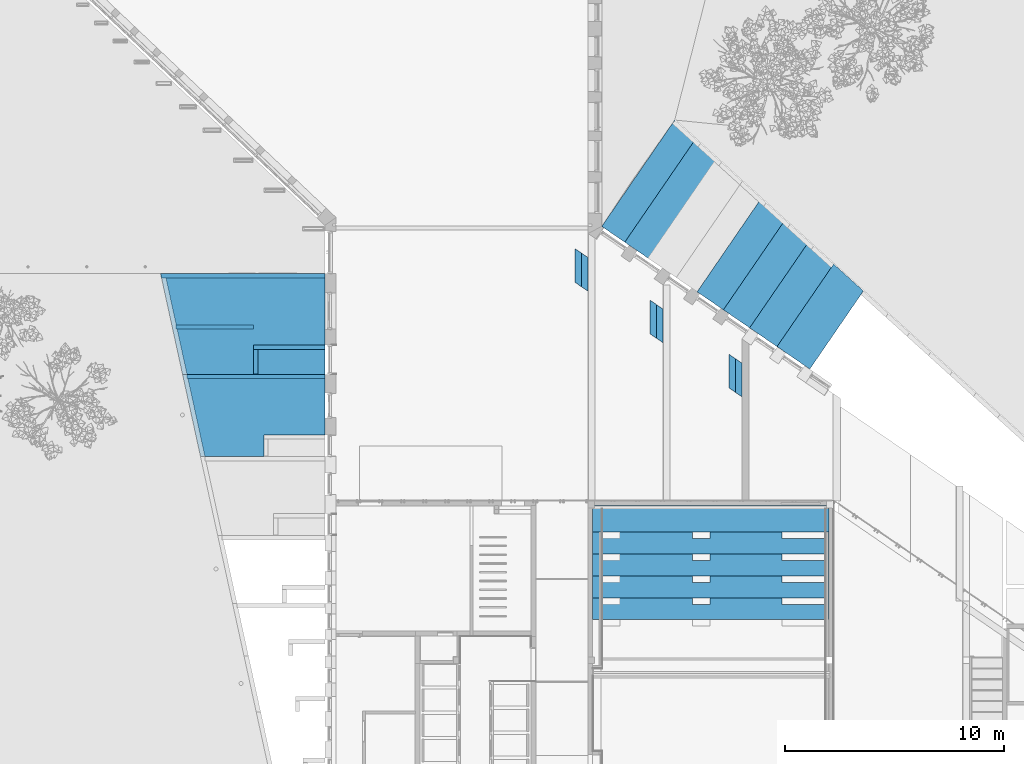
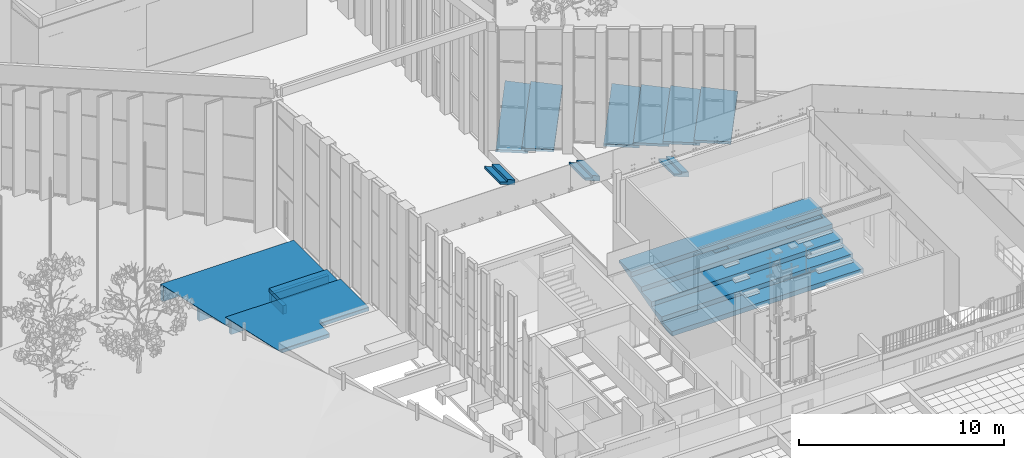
# One storey, part 139 of 246: 20 stairs.
"""IFC2X3 building model written with IfcOpenShell, lengths in millimetres."""

from ifc_helpers import new_model, entity, si_unit, converted_unit, derived_unit, money_unit, direction, frame, origin_with_axes, place, context, subcontext, project, spatial, faceted_brep, material, material_list, element, save


model = new_model("IFC2X3")

# Units and contexts
model_context = context("Model", 3, precision=0.01, world=origin_with_axes(), true_north=direction((0.0, 1.0)))
body_context = subcontext(model_context, "Body", "Model", "MODEL_VIEW")
ifc_project = project(units=[si_unit("LENGTHUNIT", "METRE", prefix="MILLI"), si_unit("AREAUNIT", "SQUARE_METRE"), si_unit("VOLUMEUNIT", "CUBIC_METRE"), converted_unit("PLANEANGLEUNIT", "DEGREE", entity("IfcPlaneAngleMeasure", 0.0174532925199), si_unit("PLANEANGLEUNIT", "RADIAN"), dimensions=[0, 0, 0, 0, 0, 0, 0]), si_unit("SOLIDANGLEUNIT", "STERADIAN"), money_unit("EUR"), converted_unit("TIMEUNIT", "Year", entity("IfcTimeMeasure", 31556926.0), si_unit("TIMEUNIT", "SECOND"), dimensions=[0, 0, 1, 0, 0, 0, 0]), si_unit("MASSUNIT", "GRAM", prefix="KILO"), si_unit("THERMODYNAMICTEMPERATUREUNIT", "DEGREE_CELSIUS"), si_unit("LUMINOUSINTENSITYUNIT", "LUMEN"), si_unit("ENERGYUNIT", "JOULE", prefix="MEGA"), derived_unit("THERMALCONDUCTANCEUNIT", [(si_unit("POWERUNIT", "WATT"), 1), (si_unit("LENGTHUNIT", "METRE"), -1), (si_unit("THERMODYNAMICTEMPERATUREUNIT", "KELVIN"), -1)]), derived_unit("SPECIFICHEATCAPACITYUNIT", [(si_unit("ENERGYUNIT", "JOULE"), 1), (si_unit("MASSUNIT", "GRAM", prefix="KILO"), -1), (si_unit("THERMODYNAMICTEMPERATUREUNIT", "KELVIN"), -1)]), derived_unit("MASSDENSITYUNIT", [(si_unit("MASSUNIT", "GRAM", prefix="KILO"), 1), (si_unit("VOLUMEUNIT", "CUBIC_METRE"), -1)])], contexts=[model_context])

# Site, building, storey
site_placement = place(None, origin_with_axes())
site = spatial("IfcSite", under=ifc_project, at=site_placement, Name="L.Koidula tn 11b", CompositionType="ELEMENT")
building_placement = place(site_placement, origin_with_axes())
building = spatial("IfcBuilding", under=site, at=building_placement, Name="Rakvere Riigigümnaasium", CompositionType="ELEMENT")
storey_placement = place(building_placement, origin_with_axes())
storey = spatial("IfcBuildingStorey", under=building, at=storey_placement, Name="1.korrus 0,00", CompositionType="ELEMENT", Elevation=0.0)

# Stairs
ifc_material_1 = material(Name="Betoon")
stair_1_placement = place(storey_placement, frame((34986.0000521, 41880.4554916, -495.0), z_axis=(0.0, 0.0, 1.0), x_axis=(-1.0, 0.0, 0.0)))
element("IfcStair", 1, at=stair_1_placement, inside=storey, material=ifc_material_1, Name="Astmestik-1", ShapeType="NOTDEFINED", context=body_context, shape_type="Brep", body=[
    faceted_brep([(0.0, 200.0, 914.0), (0.0, 0.0, 914.0), (7495.59100792, 0.0, 914.0), (7451.94036184, 200.0, 914.0), (0.0, 200.0, 0.0), (0.0, 0.0, 0.0), (7495.59100792, 0.0, 0.0), (7451.94036184, 200.0, 0.0)], [[[0, 1, 2, 3]], [[0, 4, 5, 1]], [[1, 5, 6, 2]], [[6, 7, 3, 2]], [[4, 0, 3, 7]], [[5, 4, 7, 6]]]),
])
stair_2_placement = place(storey_placement, frame((34986.0, 38630.4554754, -90.0), z_axis=(0.0, 0.0, 1.0), x_axis=(-1.0, 0.0, 0.0)))
element("IfcStair", 2, at=stair_2_placement, inside=storey, material=ifc_material_1, Name="Astmestik-1", ShapeType="NOTDEFINED", context=body_context, shape_type="Brep", body=[
    faceted_brep([(0.0, 0.0, 518.0), (3249.05698192, 0.0, 518.0), (3249.05701073, 200.0, 518.0), (0.0, 200.0, 518.0), (0.0, 0.0, 0.0), (3249.05698192, 0.0, 0.0), (3249.05701073, 200.0, 0.0), (0.0, 200.0, 0.0)], [[[0, 1, 2, 3]], [[4, 5, 1, 0]], [[6, 2, 1, 5]], [[3, 2, 6, 7]], [[7, 4, 0, 3]], [[7, 6, 5, 4]]]),
])
stair_3_placement = place(storey_placement, frame((31736.9430181, 38630.4554754, -90.0), z_axis=(0.0, 0.0, 1.0), x_axis=(-1.44049249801e-07, -1.0, 0.0)))
element("IfcStair", 3, at=stair_3_placement, inside=storey, material=ifc_material_1, Name="Astmestik-1", ShapeType="NOTDEFINED", context=body_context, shape_type="Brep", body=[
    faceted_brep([(199.99997119, 200.0, 518.0), (200.0, 0.0, 518.0), (1320.25360693, 0.0, 518.0), (1320.25360693, 200.0, 518.0), (199.99997119, 200.0, 0.0), (200.0, 0.0, 0.0), (1320.25360693, 0.0, 0.0), (1320.25360693, 200.0, 0.0)], [[[0, 1, 2, 3]], [[4, 5, 1, 0]], [[1, 5, 6, 2]], [[7, 3, 2, 6]], [[4, 0, 3, 7]], [[5, 4, 7, 6]]]),
])
stair_4_placement = place(storey_placement, frame((46399.9999938, 41129.5623836, 0.0), z_axis=(0.0, 0.0, 1.0), x_axis=(1.0, 0.0, 0.0)))
element("IfcStair", 4, at=stair_4_placement, inside=storey, material=ifc_material_1, Name="Trepp", ShapeType="NOTDEFINED", context=body_context, shape_type="Brep", body=[
    faceted_brep([(300.0, 152.071992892, 155.0), (300.0, 1692.05118758, 155.0), (0.0, 1897.81447449, 155.0), (0.0, 357.835275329, 155.0), (300.0, 152.071992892, 310.0), (300.0, 1692.05118758, 310.0), (0.0, 1897.81447449, 0.0), (600.0, 1486.28790067, 310.0), (600.0, 1486.28790067, 0.0), (0.0, 357.835275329, 0.0), (600.0, -53.6912895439, 0.0), (600.0, -53.6912895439, 310.0)], [[[0, 1, 2, 3]], [[1, 0, 4, 5]], [[6, 2, 1, 5, 7, 8]], [[2, 6, 9, 3]], [[0, 3, 9, 10, 11, 4]], [[7, 5, 4, 11]], [[11, 10, 8, 7]], [[8, 10, 9, 6]]]),
])
stair_5_placement = place(storey_placement, frame((49819.9999594, 38779.8368952, 465.0), z_axis=(0.0, 0.0, 1.0), x_axis=(1.0, 0.0, 0.0)))
element("IfcStair", 5, at=stair_5_placement, inside=storey, material=ifc_material_1, Name="Trepp", ShapeType="NOTDEFINED", context=body_context, shape_type="Brep", body=[
    faceted_brep([(300.0, 151.998051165, 155.0), (300.0, 1692.15884175, 155.0), (-1.46982301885e-05, 1897.90383736, 155.0), (0.0, 357.761440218, 155.0), (300.0, 151.998051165, 310.0), (300.0, 1692.15884175, 310.0), (-1.46982301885e-05, 1897.90383736, 0.0), (600.000028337, 1486.41383679, 310.0), (600.000028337, 1486.41383679, 0.0), (0.0, 357.761440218, 0.0), (600.0, -53.7653378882, 0.0), (600.0, -53.7653378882, 310.0)], [[[0, 1, 2, 3]], [[1, 0, 4, 5]], [[6, 2, 1, 5, 7, 8]], [[2, 6, 9, 3]], [[0, 3, 9, 10, 11, 4]], [[7, 5, 4, 11]], [[11, 10, 8, 7]], [[8, 10, 9, 6]]]),
])
stair_6_placement = place(storey_placement, frame((53420.0253524, 36314.1328393, 929.821815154), z_axis=(0.0, 0.0, 1.0), x_axis=(1.0, 0.0, 0.0)))
element("IfcStair", 6, at=stair_6_placement, inside=storey, material=ifc_material_1, Name="Trepp", ShapeType="NOTDEFINED", context=body_context, shape_type="Brep", body=[
    faceted_brep([(300.0, 152.304585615, 155.0), (300.0, 1692.3053695, 155.0), (-6.51611742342e-06, 1898.05035153, 155.0), (-2.20420375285e-05, 358.007993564, 155.0), (300.0, 152.304585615, 310.0), (300.0, 1692.3053695, 310.0), (-6.51611742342e-06, 1898.05035153, 0.0), (600.0, 1486.56039194, 310.0), (600.0, 1486.56039194, 0.0), (-2.20420375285e-05, 358.007993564, 0.0), (600.0, -53.3988072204, 0.0), (600.0, -53.3988072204, 310.0)], [[[0, 1, 2, 3]], [[1, 0, 4, 5]], [[6, 2, 1, 5, 7, 8]], [[2, 6, 9, 3]], [[0, 3, 9, 10, 11, 4]], [[7, 5, 4, 11]], [[11, 10, 8, 7]], [[8, 10, 9, 6]]]),
])
ifc_material_2 = material(Name="Puit-terrass")
stair_7_placement = place(storey_placement, frame((29310.6752725, 33540.2983953, 910.0), z_axis=(0.0, 0.0, 1.0), x_axis=(1.0, 0.0, 0.0)))
element("IfcStair", 7, at=stair_7_placement, inside=storey, material=ifc_material_2, Name="Astmestik-1", ShapeType="NOTDEFINED", context=body_context, shape_type="Brep", body=[
    faceted_brep([(2889.63446972, 0.0, 0.0), (0.0, 0.0, 0.0), (0.0, 0.0, -26.0), (2889.63446972, 0.0, -26.0), (5675.32477967, 3749.90347312, 0.0), (-818.428546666, 3749.90347312, 0.0), (2889.63446972, 990.042685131, 0.0), (5675.32477967, 990.042685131, 0.0), (-818.428546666, 3749.90347312, -26.0), (2889.63446972, 990.042685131, -26.0), (5675.32477967, 3749.90347312, -26.0), (5675.32477967, 990.042685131, -26.0)], [[[0, 1, 2, 3]], [[4, 5, 1, 0, 6, 7]], [[1, 5, 8, 2]], [[9, 3, 2, 8, 10, 11]], [[6, 0, 3, 9]], [[5, 4, 10, 8]], [[7, 6, 9, 11]], [[4, 7, 11, 10]]]),
])
stair_8_placement = place(storey_placement, frame((27490.4090628, 41880.4555425, 445.0), z_axis=(0.0, 0.0, 1.0), x_axis=(1.0, 0.0, 0.0)))
element("IfcStair", 8, at=stair_8_placement, inside=storey, material=ifc_material_2, Name="Astmestik-1", ShapeType="NOTDEFINED", context=body_context, shape_type="Brep", body=[
    faceted_brep([(1001.84195244, -4590.25367407, 0.0), (0.0, 0.0, 0.0), (0.0, 0.0, -26.0), (1001.84195244, -4590.25367407, -26.0), (7495.59098936, -3250.00006714, 0.0), (7495.59098936, 0.0, 0.0), (4246.53392931, -4590.25367407, 0.0), (4246.53392931, -3250.00006714, 0.0), (7495.59098936, 0.0, -26.0), (4246.53392931, -4590.25367407, -26.0), (7495.59098936, -3250.00006714, -26.0), (4246.53392931, -3250.00006714, -26.0)], [[[0, 1, 2, 3]], [[4, 5, 1, 0, 6, 7]], [[1, 5, 8, 2]], [[9, 3, 2, 8, 10, 11]], [[6, 0, 3, 9]], [[5, 4, 10, 8]], [[7, 6, 9, 11]], [[4, 7, 11, 10]]]),
])
ifc_material_3 = material(Name="vaip")
ifc_material_list = material_list([ifc_material_1, ifc_material_3, ifc_material_3, ifc_material_3, ifc_material_3, ifc_material_3, ifc_material_3, ifc_material_3, ifc_material_3, ifc_material_3, ifc_material_3])
stair_9_placement = place(storey_placement, frame((57980.0348101, 26095.4555287, -0.00616850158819), z_axis=(0.0, 0.0, 1.0), x_axis=(1.0, 0.0, 0.0)))
element("IfcStair", 9, at=stair_9_placement, inside=storey, material=ifc_material_list, Name="A-TR-1", ShapeType="NOTDEFINED", context=body_context, shape_type="Brep", body=[
    faceted_brep([(-10780.0, 4005.0, 1111.0), (-10780.0, 3005.0, 1111.0), (0.0, 3005.0, 1111.0), (0.0, 4005.0, 1111.0), (-154.457261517, 3699.85366785, 1111.0), (-2124.5, 3699.85366785, 1111.0), (-2124.5, 3999.85366785, 1111.0), (-154.457261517, 3999.85366785, 1111.0), (-6229.45549696, 3699.85366785, 1111.0), (-6229.45549696, 3999.85366785, 1111.0), (-5419.45549696, 3999.85366785, 1111.0), (-5419.45549696, 3699.85366785, 1111.0), (-10780.0, 1005.0, 274.0), (-10780.0, 1005.0, 553.0), (-10780.0, 2005.0, 553.0), (-10780.0, 2005.0, 832.0), (-10780.0, 3005.0, 832.0), (-10780.0, 4005.00005475, 1390.0), (-10780.0, 5000.0, 1390.0), (-10780.0, 5000.0, 1395.0), (-10780.0, 5200.0, 1395.0), (-10780.0, 5200.0, 1245.0), (-10780.0, 5043.45405853, 1245.0), (-10780.0, 5000.0, 1232.87631767), (-10780.0, 4909.09090909, 1207.51268131), (-10780.0, 4818.18181818, 1182.14904494), (-10780.0, 4727.27272727, 1156.78540858), (-10780.0, 4636.36363636, 1131.42177222), (-10780.0, 4545.45454545, 1106.05813585), (-10780.0, 4454.54545455, 1080.69449949), (-10780.0, 4363.63636364, 1055.33086313), (-10780.0, 4272.72727273, 1029.96722676), (-10780.0, 4181.81818182, 1004.6035904), (-10780.0, 4090.90909091, 979.239954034), (-10780.0, 4000.0, 953.876317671), (-10780.0, 3909.09090909, 928.512681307), (-10780.0, 3818.18181818, 903.149044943), (-10780.0, 3727.27272727, 877.78540858), (-10780.0, 3636.36363636, 852.421772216), (-10780.0, 3545.45454545, 827.058135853), (-10780.0, 3454.54545455, 801.694499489), (-10780.0, 3363.63636364, 776.330863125), (-10780.0, 3272.72727273, 750.967226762), (-10780.0, 3181.81818182, 725.603590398), (-10780.0, 3090.90909091, 700.239954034), (-10780.0, 3000.0, 674.876317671), (-10780.0, 2909.09090909, 649.512681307), (-10780.0, 2818.18181818, 624.149044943), (-10780.0, 2727.27272727, 598.78540858), (-10780.0, 2636.36363636, 573.421772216), (-10780.0, 2545.45454545, 548.058135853), (-10780.0, 2454.54545455, 522.694499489), (-10780.0, 2363.63636364, 497.330863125), (-10780.0, 2272.72727273, 471.967226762), (-10780.0, 2181.81818182, 446.603590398), (-10780.0, 2090.90909091, 421.239954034), (-10780.0, 2000.0, 395.876317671), (-10780.0, 1909.09090909, 370.512681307), (-10780.0, 1818.18181818, 345.149044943), (-10780.0, 1727.27272727, 319.78540858), (-10780.0, 1636.36363636, 294.421772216), (-10780.0, 1545.45454545, 269.058135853), (-10780.0, 1454.54545455, 243.694499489), (-10780.0, 1363.63636364, 218.330863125), (-10780.0, 1272.72727273, 192.967226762), (-10780.0, 1181.81818182, 167.603590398), (-10780.0, 1090.90909091, 142.239954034), (-10780.0, 1000.0, 116.876317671), (-10780.0, 909.090909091, 91.5126813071), (-10780.0, 818.181818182, 66.1490449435), (-10780.0, 727.272727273, 40.7854085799), (-10780.0, 636.363636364, 15.4217722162), (-10780.0, 581.08846713, 0.0), (-10780.0, 5.0, 0.0), (-10780.0, 5.0, 274.0), (0.0, 3005.0, 832.0), (0.0, 4727.27272727, 1156.78540858), (0.0, 4818.18181818, 1182.14904494), (0.0, 4909.09090909, 1207.51268131), (0.0, 5000.0, 1232.87631767), (0.0, 5043.45405853, 1245.0), (0.0, 5200.0, 1245.0), (0.0, 5200.0, 1395.0), (0.0, 5000.0, 1395.0), (0.0, 5000.0, 1390.0), (0.0, 4005.00005475, 1390.0), (0.0, 2005.0, 832.0), (0.0, 2005.0, 553.0), (0.0, 1005.0, 553.0), (0.0, 1005.0, 274.0), (0.0, 5.0, 274.0), (0.0, 5.0, 0.0), (0.0, 581.08846713, 0.0), (0.0, 636.363636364, 15.4217722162), (0.0, 727.272727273, 40.7854085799), (0.0, 818.181818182, 66.1490449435), (0.0, 909.090909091, 91.5126813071), (0.0, 1000.0, 116.876317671), (0.0, 1090.90909091, 142.239954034), (0.0, 1181.81818182, 167.603590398), (0.0, 1272.72727273, 192.967226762), (0.0, 1363.63636364, 218.330863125), (0.0, 1454.54545455, 243.694499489), (0.0, 1545.45454545, 269.058135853), (0.0, 1636.36363636, 294.421772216), (0.0, 1727.27272727, 319.78540858), (0.0, 1818.18181818, 345.149044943), (0.0, 1909.09090909, 370.512681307), (0.0, 2000.0, 395.876317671), (0.0, 2090.90909091, 421.239954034), (0.0, 2181.81818182, 446.603590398), (0.0, 2272.72727273, 471.967226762), (0.0, 2363.63636364, 497.330863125), (0.0, 2454.54545455, 522.694499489), (0.0, 2545.45454545, 548.058135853), (0.0, 2636.36363636, 573.421772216), (0.0, 2727.27272727, 598.78540858), (0.0, 2818.18181818, 624.149044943), (0.0, 2909.09090909, 649.512681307), (0.0, 3000.0, 674.876317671), (0.0, 3090.90909091, 700.239954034), (0.0, 3181.81818182, 725.603590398), (0.0, 3272.72727273, 750.967226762), (0.0, 3363.63636364, 776.330863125), (0.0, 3454.54545455, 801.694499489), (0.0, 3545.45454545, 827.058135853), (0.0, 3636.36363636, 852.421772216), (0.0, 3727.27272727, 877.78540858), (0.0, 3818.18181818, 903.149044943), (0.0, 3909.09090909, 928.512681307), (0.0, 4000.0, 953.876317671), (0.0, 4090.90909091, 979.239954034), (0.0, 4181.81818182, 1004.6035904), (0.0, 4272.72727273, 1029.96722676), (0.0, 4363.63636364, 1055.33086313), (0.0, 4454.54545455, 1080.69449949), (0.0, 4545.45454545, 1106.05813585), (0.0, 4636.36363636, 1131.42177222), (-2124.5, 3699.85366785, 1096.0), (-154.457261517, 3699.85366785, 1096.0), (-2124.5, 3999.85366785, 1096.0), (-154.457261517, 3999.85366785, 1096.0), (-6229.45549696, 3699.85366785, 1096.0), (-6229.45549696, 3999.85366785, 1096.0), (-5419.45549696, 3999.85366785, 1096.0), (-5419.45549696, 3699.85366785, 1096.0), (-2124.5, 2000.0, 553.0), (-154.457313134, 2000.0, 553.0), (-154.457313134, 1700.0, 553.0), (-2124.5, 1700.0, 553.0), (-5419.45549696, 1700.0, 553.0), (-6229.45549696, 1700.0, 553.0), (-6229.45549696, 2000.0, 553.0), (-5419.45549696, 2000.0, 553.0), (-2124.5, 3000.0, 832.0), (-154.457313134, 3000.0, 832.0), (-154.457313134, 2700.0, 832.0), (-2124.5, 2700.0, 832.0), (-5419.45549696, 3000.0, 832.0), (-5419.45549696, 2700.0, 832.0), (-6229.45549696, 2700.0, 832.0), (-6229.45549696, 3000.0, 832.0), (-154.457313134, 1000.0, 274.0), (-154.457313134, 700.0, 274.0), (-2124.5, 700.0, 274.0), (-2124.5, 1000.0, 274.0), (-6229.45549696, 700.0, 274.0), (-6229.45549696, 1000.0, 274.0), (-5419.45549696, 1000.0, 274.0), (-5419.45549696, 700.0, 274.0), (-2124.5, 2000.0, 538.0), (-154.457313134, 2000.0, 538.0), (-154.457313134, 1700.0, 538.0), (-2124.5, 1700.0, 538.0), (-6229.45549696, 1700.0, 538.0), (-5419.45549696, 1700.0, 538.0), (-6229.45549696, 2000.0, 538.0), (-5419.45549696, 2000.0, 538.0), (-2124.5, 3000.0, 817.0), (-154.457313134, 3000.0, 817.0), (-154.457313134, 2700.0, 817.0), (-2124.5, 2700.0, 817.0), (-5419.45549696, 3000.0, 817.0), (-5419.45549696, 2700.0, 817.0), (-6229.45549696, 2700.0, 817.0), (-6229.45549696, 3000.0, 817.0), (-154.457313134, 1000.0, 259.0), (-154.457313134, 700.0, 259.0), (-2124.5, 700.0, 259.0), (-2124.5, 1000.0, 259.0), (-6229.45549696, 700.0, 259.0), (-6229.45549696, 1000.0, 259.0), (-5419.45549696, 1000.0, 259.0), (-5419.45549696, 700.0, 259.0)], [[[0, 1, 2, 3], [4, 5, 6, 7], [8, 9, 10, 11]], [[12, 13, 14, 15, 16, 1, 0, 17, 18, 19, 20, 21, 22, 23, 24, 25, 26, 27, 28, 29, 30, 31, 32, 33, 34, 35, 36, 37, 38, 39, 40, 41, 42, 43, 44, 45, 46, 47, 48, 49, 50, 51, 52, 53, 54, 55, 56, 57, 58, 59, 60, 61, 62, 63, 64, 65, 66, 67, 68, 69, 70, 71, 72, 73, 74]], [[2, 1, 16, 75]], [[76, 77, 78, 79, 80, 81, 82, 83, 84, 85, 3, 2, 75, 86, 87, 88, 89, 90, 91, 92, 93, 94, 95, 96, 97, 98, 99, 100, 101, 102, 103, 104, 105, 106, 107, 108, 109, 110, 111, 112, 113, 114, 115, 116, 117, 118, 119, 120, 121, 122, 123, 124, 125, 126, 127, 128, 129, 130, 131, 132, 133, 134, 135, 136, 137]], [[85, 17, 0, 3]], [[138, 5, 4, 139]], [[140, 6, 5, 138]], [[141, 7, 6, 140]], [[139, 4, 7, 141]], [[9, 8, 142, 143]], [[10, 9, 143, 144]], [[11, 10, 144, 145]], [[8, 11, 145, 142]], [[88, 13, 12, 89]], [[14, 13, 88, 87], [146, 147, 148, 149], [150, 151, 152, 153]], [[86, 15, 14, 87]], [[16, 15, 86, 75], [154, 155, 156, 157], [158, 159, 160, 161]], [[85, 84, 18, 17]], [[84, 83, 19, 18]], [[19, 83, 82, 20]], [[82, 81, 21, 20]], [[21, 81, 80, 22]], [[23, 22, 80, 79, 78, 24]], [[25, 24, 78, 77]], [[26, 25, 77, 76]], [[27, 26, 76, 137]], [[28, 27, 137, 136]], [[29, 28, 136, 135]], [[30, 29, 135, 134]], [[31, 30, 134, 133]], [[32, 31, 133, 132]], [[33, 32, 132, 131]], [[34, 33, 131, 130]], [[35, 34, 130, 129]], [[36, 35, 129, 128]], [[37, 36, 128, 127]], [[38, 37, 127, 126]], [[39, 38, 126, 125]], [[40, 39, 125, 124]], [[41, 40, 124, 123]], [[42, 41, 123, 122]], [[43, 42, 122, 121]], [[44, 43, 121, 120]], [[45, 44, 120, 119]], [[46, 45, 119, 118]], [[47, 46, 118, 117]], [[48, 47, 117, 116]], [[49, 48, 116, 115]], [[50, 49, 115, 114]], [[51, 50, 114, 113]], [[52, 51, 113, 112]], [[53, 52, 112, 111]], [[54, 53, 111, 110]], [[55, 54, 110, 109]], [[56, 55, 109, 108]], [[57, 56, 108, 107]], [[58, 57, 107, 106]], [[59, 58, 106, 105]], [[60, 59, 105, 104]], [[61, 60, 104, 103]], [[62, 61, 103, 102]], [[63, 62, 102, 101]], [[64, 63, 101, 100]], [[65, 64, 100, 99]], [[66, 65, 99, 98]], [[67, 66, 98, 97]], [[68, 67, 97, 96]], [[69, 68, 96, 95]], [[70, 69, 95, 94]], [[71, 70, 94, 93]], [[72, 71, 93, 92]], [[72, 92, 91, 73]], [[74, 73, 91, 90]], [[12, 74, 90, 89], [162, 163, 164, 165], [166, 167, 168, 169]], [[139, 141, 140, 138]], [[144, 143, 142, 145]], [[146, 170, 171, 147]], [[147, 171, 172, 148]], [[148, 172, 173, 149]], [[149, 173, 170, 146]], [[174, 151, 150, 175]], [[176, 152, 151, 174]], [[177, 153, 152, 176]], [[175, 150, 153, 177]], [[154, 178, 179, 155]], [[155, 179, 180, 156]], [[156, 180, 181, 157]], [[157, 181, 178, 154]], [[182, 183, 159, 158]], [[183, 184, 160, 159]], [[184, 185, 161, 160]], [[185, 182, 158, 161]], [[186, 187, 163, 162]], [[187, 188, 164, 163]], [[188, 189, 165, 164]], [[189, 186, 162, 165]], [[167, 166, 190, 191]], [[168, 167, 191, 192]], [[169, 168, 192, 193]], [[166, 169, 193, 190]], [[170, 173, 172, 171]], [[175, 177, 176, 174]], [[178, 181, 180, 179]], [[184, 183, 182, 185]], [[188, 187, 186, 189]], [[192, 191, 190, 193]]]),
    faceted_brep([(0.0, 0.0, 274.0), (0.0, 5.0, 274.0), (-10780.0, 5.0, 274.0), (-10780.0, 0.0, 274.0), (0.0, 0.0, 0.0), (0.0, 5.0, 0.0), (-10780.0, 5.0, 0.0), (-10780.0, 0.0, 0.0)], [[[0, 1, 2, 3]], [[0, 4, 5, 1]], [[1, 5, 6, 2]], [[3, 2, 6, 7]], [[4, 0, 3, 7]], [[5, 4, 7, 6]]]),
    faceted_brep([(-10780.0, 1005.0, 553.0), (-10780.0, 1000.0, 553.0), (0.0, 1000.0, 553.0), (0.0, 1005.0, 553.0), (-10780.0, 1005.0, 279.0), (-10780.0, 1000.0, 279.0), (0.0, 1000.0, 279.0), (0.0, 1005.0, 279.0)], [[[0, 1, 2, 3]], [[4, 5, 1, 0]], [[1, 5, 6, 2]], [[7, 3, 2, 6]], [[4, 0, 3, 7]], [[5, 4, 7, 6]]]),
    faceted_brep([(-10780.0, 2005.0, 832.0), (-10780.0, 2000.0, 832.0), (0.0, 2000.0, 832.0), (0.0, 2005.0, 832.0), (-10780.0, 2005.0, 558.0), (-10780.0, 2000.0, 558.0), (0.0, 2000.0, 558.0), (0.0, 2005.0, 558.0)], [[[0, 1, 2, 3]], [[4, 5, 1, 0]], [[1, 5, 6, 2]], [[7, 3, 2, 6]], [[4, 0, 3, 7]], [[5, 4, 7, 6]]]),
    faceted_brep([(-10780.0, 3005.0, 1111.0), (-10780.0, 3000.0, 1111.0), (0.0, 3000.0, 1111.0), (0.0, 3005.0, 1111.0), (-10780.0, 3005.0, 837.0), (-10780.0, 3000.0, 837.0), (0.0, 3000.0, 837.0), (0.0, 3005.0, 837.0)], [[[0, 1, 2, 3]], [[4, 5, 1, 0]], [[1, 5, 6, 2]], [[7, 3, 2, 6]], [[4, 0, 3, 7]], [[5, 4, 7, 6]]]),
    faceted_brep([(0.0, 4000.0, 1390.0), (0.0, 4005.0, 1390.0), (-10780.0, 4005.0, 1390.0), (-10780.0, 4000.0, 1390.0), (0.0, 4000.0, 1116.0), (0.0, 4005.0, 1116.0), (-10780.0, 4005.0, 1116.0), (-10780.0, 4000.0, 1116.0)], [[[0, 1, 2, 3]], [[0, 4, 5, 1]], [[1, 5, 6, 2]], [[3, 2, 6, 7]], [[4, 0, 3, 7]], [[5, 4, 7, 6]]]),
    faceted_brep([(0.0, 1005.00005573, 274.0), (0.0, 0.0, 274.0), (-10780.0, 0.0, 274.0), (-10780.0, 1005.00005573, 274.0), (-2124.5, 1000.0, 274.0), (-2124.5, 700.0, 274.0), (-154.457313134, 700.0, 274.0), (-154.457313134, 1000.0, 274.0), (-6229.45549696, 700.0, 274.0), (-5419.45549696, 700.0, 274.0), (-5419.45549696, 1000.0, 274.0), (-6229.45549696, 1000.0, 274.0), (0.0, 1005.00005573, 279.0), (0.0, 0.0, 279.0), (-10780.0, 0.0, 279.0), (-10780.0, 1005.00005573, 279.0), (-2124.5, 1000.0, 279.0), (-2124.5, 700.0, 279.0), (-154.457313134, 700.0, 279.0), (-154.457313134, 1000.0, 279.0), (-6229.45549696, 700.0, 279.0), (-5419.45549696, 700.0, 279.0), (-5419.45549696, 1000.0, 279.0), (-6229.45549696, 1000.0, 279.0)], [[[0, 1, 2, 3], [4, 5, 6, 7], [8, 9, 10, 11]], [[12, 13, 1, 0]], [[13, 14, 2, 1]], [[14, 15, 3, 2]], [[15, 12, 0, 3]], [[4, 16, 17, 5]], [[5, 17, 18, 6]], [[6, 18, 19, 7]], [[7, 19, 16, 4]], [[20, 21, 9, 8]], [[21, 22, 10, 9]], [[22, 23, 11, 10]], [[23, 20, 8, 11]], [[12, 15, 14, 13], [18, 17, 16, 19], [20, 23, 22, 21]]]),
    faceted_brep([(-10780.0, 1000.0, 553.0), (-10780.0, 2005.00005573, 553.0), (0.0, 2005.00005573, 553.0), (0.0, 1000.0, 553.0), (-154.457313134, 1700.0, 553.0), (-154.457313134, 2000.0, 553.0), (-2124.5, 2000.0, 553.0), (-2124.5, 1700.0, 553.0), (-6229.45549696, 2000.0, 553.0), (-6229.45549696, 1700.0, 553.0), (-5419.45549696, 1700.0, 553.0), (-5419.45549696, 2000.0, 553.0), (-10780.0, 1000.0, 558.0), (-10780.0, 2005.00005573, 558.0), (0.0, 2005.00005573, 558.0), (0.0, 1000.0, 558.0), (-154.457313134, 2000.0, 558.0), (-154.457313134, 1700.0, 558.0), (-2124.5, 2000.0, 558.0), (-2124.5, 1700.0, 558.0), (-6229.45549696, 2000.0, 558.0), (-6229.45549696, 1700.0, 558.0), (-5419.45549696, 1700.0, 558.0), (-5419.45549696, 2000.0, 558.0)], [[[0, 1, 2, 3], [4, 5, 6, 7], [8, 9, 10, 11]], [[1, 0, 12, 13]], [[2, 1, 13, 14]], [[3, 2, 14, 15]], [[0, 3, 15, 12]], [[16, 5, 4, 17]], [[18, 6, 5, 16]], [[19, 7, 6, 18]], [[17, 4, 7, 19]], [[8, 20, 21, 9]], [[9, 21, 22, 10]], [[10, 22, 23, 11]], [[11, 23, 20, 8]], [[12, 15, 14, 13], [18, 16, 17, 19], [22, 21, 20, 23]]]),
    faceted_brep([(-10780.0, 2000.0, 832.0), (-10780.0, 3005.00005573, 832.0), (0.0, 3005.00005573, 832.0), (0.0, 2000.0, 832.0), (-2124.5, 3000.0, 832.0), (-2124.5, 2700.0, 832.0), (-154.457313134, 2700.0, 832.0), (-154.457313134, 3000.0, 832.0), (-6229.45549696, 2700.0, 832.0), (-5419.45549696, 2700.0, 832.0), (-5419.45549696, 3000.0, 832.0), (-6229.45549696, 3000.0, 832.0), (-10780.0, 2000.0, 837.0), (-10780.0, 3005.00005573, 837.0), (0.0, 3005.00005573, 837.0), (0.0, 2000.0, 837.0), (-2124.5, 3000.0, 837.0), (-2124.5, 2700.0, 837.0), (-154.457313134, 2700.0, 837.0), (-154.457313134, 3000.0, 837.0), (-6229.45549696, 2700.0, 837.0), (-5419.45549696, 2700.0, 837.0), (-5419.45549696, 3000.0, 837.0), (-6229.45549696, 3000.0, 837.0)], [[[0, 1, 2, 3], [4, 5, 6, 7], [8, 9, 10, 11]], [[1, 0, 12, 13]], [[2, 1, 13, 14]], [[3, 2, 14, 15]], [[0, 3, 15, 12]], [[4, 16, 17, 5]], [[5, 17, 18, 6]], [[6, 18, 19, 7]], [[7, 19, 16, 4]], [[20, 21, 9, 8]], [[21, 22, 10, 9]], [[22, 23, 11, 10]], [[23, 20, 8, 11]], [[12, 15, 14, 13], [18, 17, 16, 19], [20, 23, 22, 21]]]),
    faceted_brep([(-10780.0, 3000.0, 1111.0), (-10780.0, 4005.00005573, 1111.0), (0.0, 4005.00005573, 1111.0), (0.0, 3000.0, 1111.0), (-2124.5, 3999.85366785, 1111.0), (-2124.5, 3699.85366785, 1111.0), (-154.457261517, 3699.85366785, 1111.0), (-154.457261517, 3999.85366785, 1111.0), (-6229.45549696, 3699.85366785, 1111.0), (-5419.45549696, 3699.85366785, 1111.0), (-5419.45549696, 3999.85366785, 1111.0), (-6229.45549696, 3999.85366785, 1111.0), (-10780.0, 3000.0, 1116.0), (-10780.0, 4005.00005573, 1116.0), (0.0, 4005.00005573, 1116.0), (0.0, 3000.0, 1116.0), (-2124.5, 3999.85366785, 1116.0), (-2124.5, 3699.85366785, 1116.0), (-154.457261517, 3699.85366785, 1116.0), (-154.457261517, 3999.85366785, 1116.0), (-6229.45549696, 3699.85366785, 1116.0), (-5419.45549696, 3699.85366785, 1116.0), (-5419.45549696, 3999.85366785, 1116.0), (-6229.45549696, 3999.85366785, 1116.0)], [[[0, 1, 2, 3], [4, 5, 6, 7], [8, 9, 10, 11]], [[1, 0, 12, 13]], [[2, 1, 13, 14]], [[3, 2, 14, 15]], [[0, 3, 15, 12]], [[4, 16, 17, 5]], [[5, 17, 18, 6]], [[6, 18, 19, 7]], [[7, 19, 16, 4]], [[20, 21, 9, 8]], [[21, 22, 10, 9]], [[22, 23, 11, 10]], [[23, 20, 8, 11]], [[12, 15, 14, 13], [18, 17, 16, 19], [20, 23, 22, 21]]]),
    faceted_brep([(-10780.0, 4000.0, 1390.0), (0.0, 4000.0, 1390.0), (0.0, 4000.0, 1395.0), (-10780.0, 4000.0, 1395.0), (-10780.0, 5000.0, 1390.0), (0.0, 5000.0, 1390.0), (0.0, 5000.0, 1395.0), (-10780.0, 5000.0, 1395.0)], [[[0, 1, 2, 3]], [[0, 4, 5, 1]], [[1, 5, 6, 2]], [[3, 2, 6, 7]], [[4, 0, 3, 7]], [[5, 4, 7, 6]]]),
])
stair_10_placement = place(storey_placement, frame((47619.0866525, 44039.7697647, 105.20366831), z_axis=(0.0, 0.0, 1.0), x_axis=(1.0, 0.0, 0.0)))
element("IfcStair", 10, at=stair_10_placement, inside=storey, material=ifc_material_1, Name="Astmestik-2", ShapeType="NOTDEFINED", context=body_context, shape_type="Brep", body=[
    faceted_brep([(0.0, 0.0, 0.0), (0.0, 0.0, -150.0), (1298.83948168, -890.84471884, -150.0), (1298.83948168, -890.84471884, 0.0), (3331.68338014, 4857.54904651, 0.0), (3331.68338014, 4857.54904651, -150.0), (4509.49743349, 3790.2508995, -150.0), (4509.49743349, 3790.2508995, 0.0)], [[[0, 1, 2, 3]], [[4, 5, 1, 0]], [[2, 1, 5, 6]], [[3, 2, 6, 7]], [[4, 0, 3, 7]], [[7, 6, 5, 4]]]),
])
stair_11_placement = place(storey_placement, frame((48670.5260973, 43318.6107016, 260.20366831), z_axis=(0.0, 0.0, 1.0), x_axis=(1.0, 0.0, 0.0)))
element("IfcStair", 11, at=stair_11_placement, inside=storey, material=ifc_material_1, Name="Astmestik-2", ShapeType="NOTDEFINED", context=body_context, shape_type="Brep", body=[
    faceted_brep([(0.0, 0.0, 0.0), (0.0, 0.0, -150.0), (1299.05486695, -890.992446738, -150.0), (1299.05486695, -890.992446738, 0.0), (3233.71079566, 4714.70635108, 0.0), (3233.71079566, 4714.70635108, -150.0), (4411.72016475, 3647.23121508, -150.0), (4411.72016475, 3647.23121508, 0.0)], [[[0, 1, 2, 3]], [[4, 5, 1, 0]], [[2, 1, 5, 6]], [[3, 2, 6, 7]], [[4, 0, 3, 7]], [[7, 6, 5, 4]]]),
])
stair_12_placement = place(storey_placement, frame((51972.2817836, 41054.0109127, 725.20366831), z_axis=(0.0, 0.0, 1.0), x_axis=(1.0, 0.0, 0.0)))
element("IfcStair", 12, at=stair_12_placement, inside=storey, material=ifc_material_1, Name="Astmestik-2", ShapeType="NOTDEFINED", context=body_context, shape_type="Brep", body=[
    faceted_brep([(0.0, 0.0, 0.0), (0.0, 0.0, -150.0), (1445.84543038, -991.672784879, -150.0), (1445.84543038, -991.672784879, 0.0), (2926.05430553, 4266.14737361, 0.0), (2926.05430553, 4266.14737361, -150.0), (4237.17634247, 3078.04971377, -150.0), (4237.17634247, 3078.04971377, 0.0)], [[[0, 1, 2, 3]], [[4, 5, 1, 0]], [[2, 1, 5, 6]], [[3, 2, 6, 7]], [[4, 0, 3, 7]], [[7, 6, 5, 4]]]),
])
stair_13_placement = place(storey_placement, frame((53170.727388, 40232.024091, 880.20366831), z_axis=(0.0, 0.0, 1.0), x_axis=(1.0, 0.0, 0.0)))
element("IfcStair", 13, at=stair_13_placement, inside=storey, material=ifc_material_1, Name="Astmestik-2", ShapeType="NOTDEFINED", context=body_context, shape_type="Brep", body=[
    faceted_brep([(0.0, 0.0, 0.0), (0.0, 0.0, -150.0), (1445.28173699, -991.286160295, -150.0), (1445.28173699, -991.286160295, 0.0), (2814.3835451, 4103.33292398, 0.0), (2814.3835451, 4103.33292398, -150.0), (4124.99441341, 2915.69846911, -150.0), (4124.99441341, 2915.69846911, 0.0)], [[[0, 1, 2, 3]], [[4, 5, 1, 0]], [[2, 1, 5, 6]], [[3, 2, 6, 7]], [[4, 0, 3, 7]], [[7, 6, 5, 4]]]),
])
stair_14_placement = place(storey_placement, frame((54368.6092989, 39410.4238939, 1035.20366831), z_axis=(0.0, 0.0, 1.0), x_axis=(1.0, 0.0, 0.0)))
element("IfcStair", 14, at=stair_14_placement, inside=storey, material=ifc_material_1, Name="Astmestik-2", ShapeType="NOTDEFINED", context=body_context, shape_type="Brep", body=[
    faceted_brep([(0.0, 0.0, 0.0), (0.0, 0.0, -150.0), (1496.5094283, -1026.42207886, -150.0), (1496.5094283, -1026.42207886, 0.0), (2702.76530943, 3940.59505475, 0.0), (2702.76530943, 3940.59505475, -150.0), (4059.83048991, 2710.86515946, -150.0), (4059.83048991, 2710.86515946, 0.0)], [[[0, 1, 2, 3]], [[4, 5, 1, 0]], [[2, 1, 5, 6]], [[3, 2, 6, 7]], [[4, 0, 3, 7]], [[7, 6, 5, 4]]]),
])
stair_15_placement = place(storey_placement, frame((55617.7189012, 38553.6877782, 1190.20366831), z_axis=(0.0, 0.0, 1.0), x_axis=(1.0, 0.0, 0.0)))
element("IfcStair", 15, at=stair_15_placement, inside=storey, material=ifc_material_1, Name="Astmestik-2", ShapeType="NOTDEFINED", context=body_context, shape_type="Brep", body=[
    faceted_brep([(0.0, 0.0, 0.0), (0.0, 0.0, -150.0), (1496.06465278, -1026.11701736, -150.0), (1496.06465278, -1026.11701736, 0.0), (2586.37369462, 3770.89766366, 0.0), (2586.37369462, 3770.89766366, -150.0), (3943.03554362, 2541.53325472, -150.0), (3943.03554362, 2541.53325472, 0.0)], [[[0, 1, 2, 3]], [[4, 5, 1, 0]], [[2, 1, 5, 6]], [[3, 2, 6, 7]], [[4, 0, 3, 7]], [[7, 6, 5, 4]]]),
])
stair_16_placement = place(storey_placement, frame((31736.9430006, 37290.2018684, 678.0), z_axis=(0.0, 0.0, 1.0), x_axis=(1.0, 0.0, 0.0)))
element("IfcStair", 16, at=stair_16_placement, inside=storey, material=ifc_material_1, Name="Astmestik-1", ShapeType="NOTDEFINED", context=body_context, shape_type="Brep", body=[
    faceted_brep([(0.0, 0.0, 0.0), (0.0, 0.0, -250.0), (3249.0570515, 0.0, -250.0), (3249.0570515, 0.0, 0.0), (0.0, 1340.25360693, 0.0), (0.0, 1340.25360693, -250.0), (3249.0570515, 1340.25360693, -250.0), (3249.0570515, 1340.25360693, 0.0)], [[[0, 1, 2, 3]], [[4, 5, 1, 0]], [[2, 1, 5, 6]], [[3, 2, 6, 7]], [[4, 0, 3, 7]], [[7, 6, 5, 4]]]),
])
ifc_material_4 = material(Name="Karkass-puit")
stair_17_placement = place(storey_placement, frame((27636.4139312, 41680.4554916, 419.0), z_axis=(0.0, 0.0, 1.0), x_axis=(1.0, 0.0, 0.0)))
element("IfcStair", 17, at=stair_17_placement, inside=storey, material=ifc_material_4, Name="Astmestik-1", ShapeType="NOTDEFINED", context=body_context, shape_type="Brep", body=[
    faceted_brep([(7349.58612092, 0.0, 0.0), (102.353792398, 0.0, 0.0), (1060.5408279, -4390.25362319, 0.0), (4100.52908706, -4390.25362319, 0.0), (4100.52908706, -3050.00001626, 0.0), (7349.58612092, -3050.00001626, 0.0), (7349.58612092, 0.0, -200.0), (102.353792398, 0.0, -200.0), (1060.5408279, -4390.25362319, -200.0), (4100.52908706, -4390.25362319, -200.0), (4100.52908706, -3050.00001626, -200.0), (7349.58612092, -3050.00001626, -200.0)], [[[0, 1, 2, 3, 4, 5]], [[6, 7, 1, 0]], [[7, 8, 2, 1]], [[3, 2, 8, 9]], [[4, 3, 9, 10]], [[5, 4, 10, 11]], [[0, 5, 11, 6]], [[9, 8, 7, 6, 11, 10]]]),
])
stair_18_placement = place(storey_placement, frame((29413.031191, 33540.2999644, 884.0), z_axis=(0.0, 0.0, 1.0), x_axis=(1.0, 0.0, 0.0)))
element("IfcStair", 18, at=stair_18_placement, inside=storey, material=ifc_material_4, Name="Astmestik-1", ShapeType="NOTDEFINED", context=body_context, shape_type="Brep", body=[
    faceted_brep([(5572.96886116, 3549.90190405, 0.0), (-672.425785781, 3549.90190405, 0.0), (102.351772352, 0.0, 0.0), (2787.27855121, 0.0, 0.0), (2787.27855121, 990.041116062, 0.0), (5572.96886116, 990.041116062, 0.0), (5572.96886116, 3549.90190405, -200.0), (-672.425785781, 3549.90190405, -200.0), (102.351772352, 0.0, -200.0), (2787.27855121, 0.0, -200.0), (2787.27855121, 990.041116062, -200.0), (5572.96886116, 990.041116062, -200.0)], [[[0, 1, 2, 3, 4, 5]], [[6, 7, 1, 0]], [[7, 8, 2, 1]], [[3, 2, 8, 9]], [[9, 10, 4, 3]], [[10, 11, 5, 4]], [[11, 6, 0, 5]], [[9, 8, 7, 6, 11, 10]]]),
])
stair_19_placement = place(storey_placement, frame((34986.0000521, 37290.2018684, -90.0), z_axis=(0.0, 0.0, 1.0), x_axis=(-1.0, 0.0, 0.0)))
element("IfcStair", 19, at=stair_19_placement, inside=storey, material=ifc_material_1, Name="Astmestik-1", ShapeType="NOTDEFINED", context=body_context, shape_type="Brep", body=[
    faceted_brep([(6289.04529302, 0.0, 974.0), (6289.04529302, 200.0, 974.0), (0.0, 200.0, 974.0), (0.0, 0.0, 974.0), (6289.04529302, 0.0, 0.0), (6289.04529302, 200.0, 0.0), (0.0, 200.0, 0.0), (0.0, 0.0, 0.0)], [[[0, 1, 2, 3]], [[0, 4, 5, 1]], [[1, 5, 6, 2]], [[3, 2, 6, 7]], [[4, 0, 3, 7]], [[5, 4, 7, 6]]]),
])
stair_20_placement = place(storey_placement, frame((31736.9430004, 39550.4554916, -495.0), z_axis=(0.0, 0.0, 1.0), x_axis=(-1.0, 0.0, 0.0)))
element("IfcStair", 20, at=stair_20_placement, inside=storey, material=ifc_material_1, Name="Astmestik-1", ShapeType="NOTDEFINED", context=body_context, shape_type="Brep", body=[
    faceted_brep([(0.0, 0.0, 684.0), (3533.29589606, 0.0, 684.0), (3533.29589606, 200.0, 684.0), (0.0, 200.0, 684.0), (0.0, 0.0, 0.0), (3533.29589606, 0.0, 0.0), (3533.29589606, 200.0, 0.0), (0.0, 200.0, 0.0)], [[[0, 1, 2, 3]], [[4, 5, 1, 0]], [[2, 1, 5, 6]], [[3, 2, 6, 7]], [[4, 0, 3, 7]], [[7, 6, 5, 4]]]),
])

save(model, "model.ifc")
